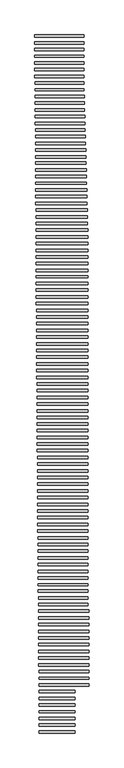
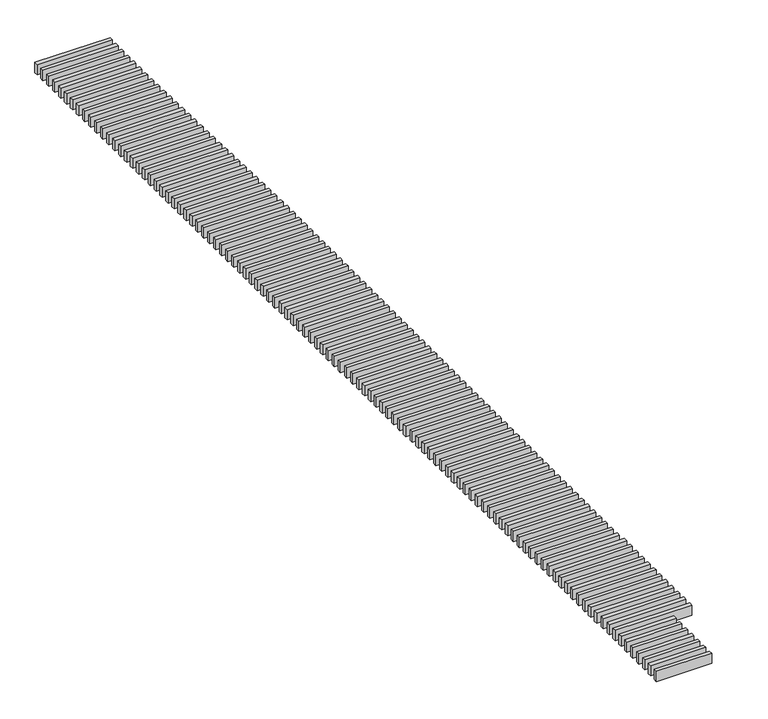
"""IFC4 building model written with IfcOpenShell, lengths in millimetres: proxy geometry, PERGOLADO : PERGOLADO."""

from ifc_helpers import new_model, si_unit, frame, origin, place, context, project, spatial, polyline, outline, extrude, source, transform, mapped, element, save


def generic_models_749ffef7(model_context):
    return source(origin(), model_context, "Body", "SweptSolid", [
        extrude(outline(polyline([(-3184.8194631, 11915.2417838), (-3184.8194631, 11845.2417838), (-4579.6936307, 11845.2417838), (-4579.6936307, 11915.2417838), (-3184.8194631, 11915.2417838)])), frame((0.0, 0.0, 3050.0), z_axis=(0.0, 0.0, 1.0), x_axis=(1.0, 0.0, 0.0)), (0.0, 0.0, 1.0), 200.0),
        extrude(outline(polyline([(-3184.8194631, 11725.2417838), (-3184.8194631, 11655.2417838), (-4579.6936307, 11655.2417838), (-4579.6936307, 11725.2417838), (-3184.8194631, 11725.2417838)])), frame((0.0, 0.0, 3050.0), z_axis=(0.0, 0.0, 1.0), x_axis=(1.0, 0.0, 0.0)), (0.0, 0.0, 1.0), 200.0),
        extrude(outline(polyline([(-3184.8194631, 11535.2417838), (-3184.8194631, 11465.2417838), (-4579.6936307, 11465.2417838), (-4579.6936307, 11535.2417838), (-3184.8194631, 11535.2417838)])), frame((0.0, 0.0, 3050.0), z_axis=(0.0, 0.0, 1.0), x_axis=(1.0, 0.0, 0.0)), (0.0, 0.0, 1.0), 200.0),
        extrude(outline(polyline([(-3184.8194631, 11345.2417838), (-3184.8194631, 11275.2417838), (-4579.6936307, 11275.2417838), (-4579.6936307, 11345.2417838), (-3184.8194631, 11345.2417838)])), frame((0.0, 0.0, 3050.0), z_axis=(0.0, 0.0, 1.0), x_axis=(1.0, 0.0, 0.0)), (0.0, 0.0, 1.0), 200.0),
        extrude(outline(polyline([(-3184.8194631, 11155.2417838), (-3184.8194631, 11085.2417838), (-4579.6936307, 11085.2417838), (-4579.6936307, 11155.2417838), (-3184.8194631, 11155.2417838)])), frame((0.0, 0.0, 3050.0), z_axis=(0.0, 0.0, 1.0), x_axis=(1.0, 0.0, 0.0)), (0.0, 0.0, 1.0), 200.0),
        extrude(outline(polyline([(-3184.8194631, 10965.2417838), (-3184.8194631, 10895.2417838), (-4579.6936307, 10895.2417838), (-4579.6936307, 10965.2417838), (-3184.8194631, 10965.2417838)])), frame((0.0, 0.0, 3050.0), z_axis=(0.0, 0.0, 1.0), x_axis=(1.0, 0.0, 0.0)), (0.0, 0.0, 1.0), 200.0),
        extrude(outline(polyline([(-3184.8194631, 10775.2417838), (-3184.8194631, 10705.2417838), (-4579.6936307, 10705.2417838), (-4579.6936307, 10775.2417838), (-3184.8194631, 10775.2417838)])), frame((0.0, 0.0, 3050.0), z_axis=(0.0, 0.0, 1.0), x_axis=(1.0, 0.0, 0.0)), (0.0, 0.0, 1.0), 200.0),
        extrude(outline(polyline([(-3181.007192, 10585.2417838), (-3181.007192, 10515.2417838), (-4575.8813596, 10515.2417838), (-4575.8813596, 10585.2417838), (-3181.007192, 10585.2417838)])), frame((0.0, 0.0, 3050.0), z_axis=(0.0, 0.0, 1.0), x_axis=(1.0, 0.0, 0.0)), (0.0, 0.0, 1.0), 200.0),
        extrude(outline(polyline([(-3176.0190057, 10395.2417838), (-3176.0190057, 10325.2417838), (-4570.8931733, 10325.2417838), (-4570.8931733, 10395.2417838), (-3176.0190057, 10395.2417838)])), frame((0.0, 0.0, 3050.0), z_axis=(0.0, 0.0, 1.0), x_axis=(1.0, 0.0, 0.0)), (0.0, 0.0, 1.0), 200.0),
        extrude(outline(polyline([(-3171.0308194, 10205.2417838), (-3171.0308194, 10135.2417838), (-4568.4064153, 10135.2417838), (-4568.4064153, 10205.2417838), (-3171.0308194, 10205.2417838)])), frame((0.0, 0.0, 3050.0), z_axis=(0.0, 0.0, 1.0), x_axis=(1.0, 0.0, 0.0)), (0.0, 0.0, 1.0), 200.0),
        extrude(outline(polyline([(-3166.0426332, 10015.2417838), (-3166.0426332, 9945.2417838), (-4566.8027673, 9945.2417838), (-4566.8027673, 10015.2417838), (-3166.0426332, 10015.2417838)])), frame((0.0, 0.0, 3050.0), z_axis=(0.0, 0.0, 1.0), x_axis=(1.0, 0.0, 0.0)), (0.0, 0.0, 1.0), 200.0),
        extrude(outline(polyline([(-3161.0544469, 9825.2417838), (-3161.0544469, 9755.2417838), (-4566.062622, 9755.2417838), (-4566.062622, 9825.2417838), (-3161.0544469, 9825.2417838)])), frame((0.0, 0.0, 3050.0), z_axis=(0.0, 0.0, 1.0), x_axis=(1.0, 0.0, 0.0)), (0.0, 0.0, 1.0), 200.0),
        extrude(outline(polyline([(-3156.0662606, 9635.2417838), (-3156.0662606, 9565.2417838), (-4564.8907253, 9565.2417838), (-4564.8907253, 9635.2417838), (-3156.0662606, 9635.2417838)])), frame((0.0, 0.0, 3050.0), z_axis=(0.0, 0.0, 1.0), x_axis=(1.0, 0.0, 0.0)), (0.0, 0.0, 1.0), 200.0),
        extrude(outline(polyline([(-3151.0780743, 9445.2417838), (-3151.0780743, 9375.2417838), (-4563.7188286, 9375.2417838), (-4563.7188286, 9445.2417838), (-3151.0780743, 9445.2417838)])), frame((0.0, 0.0, 3050.0), z_axis=(0.0, 0.0, 1.0), x_axis=(1.0, 0.0, 0.0)), (0.0, 0.0, 1.0), 200.0),
        extrude(outline(polyline([(-3146.089888, 9255.2417838), (-3146.089888, 9185.2417838), (-4562.5469319, 9185.2417838), (-4562.5469319, 9255.2417838), (-3146.089888, 9255.2417838)])), frame((0.0, 0.0, 3050.0), z_axis=(0.0, 0.0, 1.0), x_axis=(1.0, 0.0, 0.0)), (0.0, 0.0, 1.0), 200.0),
        extrude(outline(polyline([(-3141.1017017, 9065.2417838), (-3141.1017017, 8995.2417838), (-4561.3750353, 8995.2417838), (-4561.3750353, 9065.2417838), (-3141.1017017, 9065.2417838)])), frame((0.0, 0.0, 3050.0), z_axis=(0.0, 0.0, 1.0), x_axis=(1.0, 0.0, 0.0)), (0.0, 0.0, 1.0), 200.0),
        extrude(outline(polyline([(-3136.1135154, 8875.2417838), (-3136.1135154, 8805.2417838), (-4560.2031386, 8805.2417838), (-4560.2031386, 8875.2417838), (-3136.1135154, 8875.2417838)])), frame((0.0, 0.0, 3050.0), z_axis=(0.0, 0.0, 1.0), x_axis=(1.0, 0.0, 0.0)), (0.0, 0.0, 1.0), 200.0),
        extrude(outline(polyline([(-3131.1253291, 8685.2417838), (-3131.1253291, 8615.2417838), (-4559.0312419, 8615.2417838), (-4559.0312419, 8685.2417838), (-3131.1253291, 8685.2417838)])), frame((0.0, 0.0, 3050.0), z_axis=(0.0, 0.0, 1.0), x_axis=(1.0, 0.0, 0.0)), (0.0, 0.0, 1.0), 200.0),
        extrude(outline(polyline([(-3126.1371429, 8495.2417838), (-3126.1371429, 8425.2417838), (-4557.8593452, 8425.2417838), (-4557.8593452, 8495.2417838), (-3126.1371429, 8495.2417838)])), frame((0.0, 0.0, 3050.0), z_axis=(0.0, 0.0, 1.0), x_axis=(1.0, 0.0, 0.0)), (0.0, 0.0, 1.0), 200.0),
        extrude(outline(polyline([(-3121.3948435, 8314.6076151), (-3121.3948435, 8244.6076151), (-4556.7452158, 8244.6076151), (-4556.7452158, 8314.6076151), (-3121.3948435, 8314.6076151)])), frame((0.0, 0.0, 3050.0), z_axis=(0.0, 0.0, 1.0), x_axis=(1.0, 0.0, 0.0)), (0.0, 0.0, 1.0), 200.0),
        extrude(outline(polyline([(-3116.4066572, 8124.6076151), (-3116.4066572, 8054.6076151), (-4555.5733192, 8054.6076151), (-4555.5733192, 8124.6076151), (-3116.4066572, 8124.6076151)])), frame((0.0, 0.0, 3050.0), z_axis=(0.0, 0.0, 1.0), x_axis=(1.0, 0.0, 0.0)), (0.0, 0.0, 1.0), 200.0),
        extrude(outline(polyline([(-3111.4184709, 7934.6076151), (-3111.4184709, 7864.6076151), (-4554.4014225, 7864.6076151), (-4554.4014225, 7934.6076151), (-3111.4184709, 7934.6076151)])), frame((0.0, 0.0, 3050.0), z_axis=(0.0, 0.0, 1.0), x_axis=(1.0, 0.0, 0.0)), (0.0, 0.0, 1.0), 200.0),
        extrude(outline(polyline([(-3106.4302846, 7744.6076151), (-3106.4302846, 7674.6076151), (-4553.2295258, 7674.6076151), (-4553.2295258, 7744.6076151), (-3106.4302846, 7744.6076151)])), frame((0.0, 0.0, 3050.0), z_axis=(0.0, 0.0, 1.0), x_axis=(1.0, 0.0, 0.0)), (0.0, 0.0, 1.0), 200.0),
        extrude(outline(polyline([(-3101.4420983, 7554.6076151), (-3101.4420983, 7484.6076151), (-4552.0576291, 7484.6076151), (-4552.0576291, 7554.6076151), (-3101.4420983, 7554.6076151)])), frame((0.0, 0.0, 3050.0), z_axis=(0.0, 0.0, 1.0), x_axis=(1.0, 0.0, 0.0)), (0.0, 0.0, 1.0), 200.0),
        extrude(outline(polyline([(-3096.453912, 7364.6076151), (-3096.453912, 7294.6076151), (-4550.8857325, 7294.6076151), (-4550.8857325, 7364.6076151), (-3096.453912, 7364.6076151)])), frame((0.0, 0.0, 3050.0), z_axis=(0.0, 0.0, 1.0), x_axis=(1.0, 0.0, 0.0)), (0.0, 0.0, 1.0), 200.0),
        extrude(outline(polyline([(-3091.4657257, 7174.6076151), (-3091.4657257, 7104.6076151), (-4549.7138358, 7104.6076151), (-4549.7138358, 7174.6076151), (-3091.4657257, 7174.6076151)])), frame((0.0, 0.0, 3050.0), z_axis=(0.0, 0.0, 1.0), x_axis=(1.0, 0.0, 0.0)), (0.0, 0.0, 1.0), 200.0),
        extrude(outline(polyline([(-3086.4775395, 6984.6076151), (-3086.4775395, 6914.6076151), (-4548.5419391, 6914.6076151), (-4548.5419391, 6984.6076151), (-3086.4775395, 6984.6076151)])), frame((0.0, 0.0, 3050.0), z_axis=(0.0, 0.0, 1.0), x_axis=(1.0, 0.0, 0.0)), (0.0, 0.0, 1.0), 200.0),
        extrude(outline(polyline([(-3081.4893532, 6794.6076151), (-3081.4893532, 6724.6076151), (-4547.3700424, 6724.6076151), (-4547.3700424, 6794.6076151), (-3081.4893532, 6794.6076151)])), frame((0.0, 0.0, 3050.0), z_axis=(0.0, 0.0, 1.0), x_axis=(1.0, 0.0, 0.0)), (0.0, 0.0, 1.0), 200.0),
        extrude(outline(polyline([(-3076.5011669, 6604.6076151), (-3076.5011669, 6534.6076151), (-4547.3700424, 6534.6076151), (-4547.3700424, 6604.6076151), (-3076.5011669, 6604.6076151)])), frame((0.0, 0.0, 3050.0), z_axis=(0.0, 0.0, 1.0), x_axis=(1.0, 0.0, 0.0)), (0.0, 0.0, 1.0), 200.0),
        extrude(outline(polyline([(-3071.5129806, 6414.6076151), (-3071.5129806, 6344.6076151), (-4545.0262491, 6344.6076151), (-4545.0262491, 6414.6076151), (-3071.5129806, 6414.6076151)])), frame((0.0, 0.0, 3050.0), z_axis=(0.0, 0.0, 1.0), x_axis=(1.0, 0.0, 0.0)), (0.0, 0.0, 1.0), 200.0),
        extrude(outline(polyline([(-3070.2679046, 6224.6076151), (-3070.2679046, 6154.6076151), (-4543.8543524, 6154.6076151), (-4543.8543524, 6224.6076151), (-3070.2679046, 6224.6076151)])), frame((0.0, 0.0, 3050.0), z_axis=(0.0, 0.0, 1.0), x_axis=(1.0, 0.0, 0.0)), (0.0, 0.0, 1.0), 200.0),
        extrude(outline(polyline([(-3070.2679046, 6034.6076151), (-3070.2679046, 5964.6076151), (-4542.6824557, 5964.6076151), (-4542.6824557, 6034.6076151), (-3070.2679046, 6034.6076151)])), frame((0.0, 0.0, 3050.0), z_axis=(0.0, 0.0, 1.0), x_axis=(1.0, 0.0, 0.0)), (0.0, 0.0, 1.0), 200.0),
        extrude(outline(polyline([(-3070.2679046, 5844.6076151), (-3070.2679046, 5774.6076151), (-4541.0788076, 5774.6076151), (-4541.0788076, 5844.6076151), (-3070.2679046, 5844.6076151)])), frame((0.0, 0.0, 3050.0), z_axis=(0.0, 0.0, 1.0), x_axis=(1.0, 0.0, 0.0)), (0.0, 0.0, 1.0), 200.0),
        extrude(outline(polyline([(-3070.2679046, 5654.6076151), (-3070.2679046, 5584.6076151), (-4540.3386623, 5584.6076151), (-4540.3386623, 5654.6076151), (-3070.2679046, 5654.6076151)])), frame((0.0, 0.0, 3050.0), z_axis=(0.0, 0.0, 1.0), x_axis=(1.0, 0.0, 0.0)), (0.0, 0.0, 1.0), 200.0),
        extrude(outline(polyline([(-3070.2679046, 5464.6076151), (-3070.2679046, 5394.6076151), (-4540.3386623, 5394.6076151), (-4540.3386623, 5464.6076151), (-3070.2679046, 5464.6076151)])), frame((0.0, 0.0, 3050.0), z_axis=(0.0, 0.0, 1.0), x_axis=(1.0, 0.0, 0.0)), (0.0, 0.0, 1.0), 200.0),
        extrude(outline(polyline([(-3070.2679046, 5274.6076151), (-3070.2679046, 5204.6076151), (-4540.3386623, 5204.6076151), (-4540.3386623, 5274.6076151), (-3070.2679046, 5274.6076151)])), frame((0.0, 0.0, 3050.0), z_axis=(0.0, 0.0, 1.0), x_axis=(1.0, 0.0, 0.0)), (0.0, 0.0, 1.0), 200.0),
        extrude(outline(polyline([(-3070.2679046, 5093.9734464), (-3070.2679046, 5023.9734464), (-4540.3386623, 5023.9734464), (-4540.3386623, 5093.9734464), (-3070.2679046, 5093.9734464)])), frame((0.0, 0.0, 3050.0), z_axis=(0.0, 0.0, 1.0), x_axis=(1.0, 0.0, 0.0)), (0.0, 0.0, 1.0), 200.0),
        extrude(outline(polyline([(-3070.2679046, 4903.9734464), (-3070.2679046, 4833.9734464), (-4540.3386623, 4833.9734464), (-4540.3386623, 4903.9734464), (-3070.2679046, 4903.9734464)])), frame((0.0, 0.0, 3050.0), z_axis=(0.0, 0.0, 1.0), x_axis=(1.0, 0.0, 0.0)), (0.0, 0.0, 1.0), 200.0),
        extrude(outline(polyline([(-3070.2679046, 4713.9734464), (-3070.2679046, 4643.9734464), (-4540.3386623, 4643.9734464), (-4540.3386623, 4713.9734464), (-3070.2679046, 4713.9734464)])), frame((0.0, 0.0, 3050.0), z_axis=(0.0, 0.0, 1.0), x_axis=(1.0, 0.0, 0.0)), (0.0, 0.0, 1.0), 200.0),
        extrude(outline(polyline([(-3070.2679046, 4523.9734464), (-3070.2679046, 4453.9734464), (-4540.3386623, 4453.9734464), (-4540.3386623, 4523.9734464), (-3070.2679046, 4523.9734464)])), frame((0.0, 0.0, 3050.0), z_axis=(0.0, 0.0, 1.0), x_axis=(1.0, 0.0, 0.0)), (0.0, 0.0, 1.0), 200.0),
        extrude(outline(polyline([(-3070.2679046, 4333.9734464), (-3070.2679046, 4263.9734464), (-4540.3386623, 4263.9734464), (-4540.3386623, 4333.9734464), (-3070.2679046, 4333.9734464)])), frame((0.0, 0.0, 3050.0), z_axis=(0.0, 0.0, 1.0), x_axis=(1.0, 0.0, 0.0)), (0.0, 0.0, 1.0), 200.0),
        extrude(outline(polyline([(-3070.2679046, 4143.9734464), (-3070.2679046, 4073.9734464), (-4531.0212562, 4073.9734464), (-4531.0212562, 4143.9734464), (-3070.2679046, 4143.9734464)])), frame((0.0, 0.0, 3050.0), z_axis=(0.0, 0.0, 1.0), x_axis=(1.0, 0.0, 0.0)), (0.0, 0.0, 1.0), 200.0),
        extrude(outline(polyline([(-3070.2679046, 3953.9734464), (-3070.2679046, 3883.9734464), (-4531.0212562, 3883.9734464), (-4531.0212562, 3953.9734464), (-3070.2679046, 3953.9734464)])), frame((0.0, 0.0, 3050.0), z_axis=(0.0, 0.0, 1.0), x_axis=(1.0, 0.0, 0.0)), (0.0, 0.0, 1.0), 200.0),
        extrude(outline(polyline([(-3070.2679046, 3763.9734464), (-3070.2679046, 3693.9734464), (-4531.0212562, 3693.9734464), (-4531.0212562, 3763.9734464), (-3070.2679046, 3763.9734464)])), frame((0.0, 0.0, 3050.0), z_axis=(0.0, 0.0, 1.0), x_axis=(1.0, 0.0, 0.0)), (0.0, 0.0, 1.0), 200.0),
        extrude(outline(polyline([(-3070.2679046, 3573.9734464), (-3070.2679046, 3503.9734464), (-4531.0212562, 3503.9734464), (-4531.0212562, 3573.9734464), (-3070.2679046, 3573.9734464)])), frame((0.0, 0.0, 3050.0), z_axis=(0.0, 0.0, 1.0), x_axis=(1.0, 0.0, 0.0)), (0.0, 0.0, 1.0), 200.0),
        extrude(outline(polyline([(-3070.2679046, 3383.9734464), (-3070.2679046, 3313.9734464), (-4531.0212562, 3313.9734464), (-4531.0212562, 3383.9734464), (-3070.2679046, 3383.9734464)])), frame((0.0, 0.0, 3050.0), z_axis=(0.0, 0.0, 1.0), x_axis=(1.0, 0.0, 0.0)), (0.0, 0.0, 1.0), 200.0),
        extrude(outline(polyline([(-3070.2679046, 3193.9734464), (-3070.2679046, 3123.9734464), (-4531.0212562, 3123.9734464), (-4531.0212562, 3193.9734464), (-3070.2679046, 3193.9734464)])), frame((0.0, 0.0, 3050.0), z_axis=(0.0, 0.0, 1.0), x_axis=(1.0, 0.0, 0.0)), (0.0, 0.0, 1.0), 200.0),
        extrude(outline(polyline([(-3070.2679046, 3003.9734464), (-3070.2679046, 2933.9734464), (-4531.0212562, 2933.9734464), (-4531.0212562, 3003.9734464), (-3070.2679046, 3003.9734464)])), frame((0.0, 0.0, 3050.0), z_axis=(0.0, 0.0, 1.0), x_axis=(1.0, 0.0, 0.0)), (0.0, 0.0, 1.0), 200.0),
        extrude(outline(polyline([(-3070.2679046, 2813.9734464), (-3070.2679046, 2743.9734464), (-4531.0212562, 2743.9734464), (-4531.0212562, 2813.9734464), (-3070.2679046, 2813.9734464)])), frame((0.0, 0.0, 3050.0), z_axis=(0.0, 0.0, 1.0), x_axis=(1.0, 0.0, 0.0)), (0.0, 0.0, 1.0), 200.0),
        extrude(outline(polyline([(-3070.2679046, 2623.9734464), (-3070.2679046, 2553.9734464), (-4531.0212562, 2553.9734464), (-4531.0212562, 2623.9734464), (-3070.2679046, 2623.9734464)])), frame((0.0, 0.0, 3050.0), z_axis=(0.0, 0.0, 1.0), x_axis=(1.0, 0.0, 0.0)), (0.0, 0.0, 1.0), 200.0),
        extrude(outline(polyline([(-3070.2679046, 2433.9734464), (-3070.2679046, 2363.9734464), (-4531.0212562, 2363.9734464), (-4531.0212562, 2433.9734464), (-3070.2679046, 2433.9734464)])), frame((0.0, 0.0, 3050.0), z_axis=(0.0, 0.0, 1.0), x_axis=(1.0, 0.0, 0.0)), (0.0, 0.0, 1.0), 200.0),
        extrude(outline(polyline([(-3070.2679046, 2243.9734464), (-3070.2679046, 2173.9734464), (-4531.0212562, 2173.9734464), (-4531.0212562, 2243.9734464), (-3070.2679046, 2243.9734464)])), frame((0.0, 0.0, 3050.0), z_axis=(0.0, 0.0, 1.0), x_axis=(1.0, 0.0, 0.0)), (0.0, 0.0, 1.0), 200.0),
        extrude(outline(polyline([(-3070.2679046, 2053.9734464), (-3070.2679046, 1983.9734464), (-4518.1303927, 1983.9734464), (-4518.1303927, 2053.9734464), (-3070.2679046, 2053.9734464)])), frame((0.0, 0.0, 3050.0), z_axis=(0.0, 0.0, 1.0), x_axis=(1.0, 0.0, 0.0)), (0.0, 0.0, 1.0), 200.0),
        extrude(outline(polyline([(-3070.2679046, 1863.9734464), (-3070.2679046, 1793.9734464), (-4518.1303927, 1793.9734464), (-4518.1303927, 1863.9734464), (-3070.2679046, 1863.9734464)])), frame((0.0, 0.0, 3050.0), z_axis=(0.0, 0.0, 1.0), x_axis=(1.0, 0.0, 0.0)), (0.0, 0.0, 1.0), 200.0),
        extrude(outline(polyline([(-3070.2679046, 1673.9734464), (-3070.2679046, 1603.9734464), (-4518.1303927, 1603.9734464), (-4518.1303927, 1673.9734464), (-3070.2679046, 1673.9734464)])), frame((0.0, 0.0, 3050.0), z_axis=(0.0, 0.0, 1.0), x_axis=(1.0, 0.0, 0.0)), (0.0, 0.0, 1.0), 200.0),
        extrude(outline(polyline([(-3070.2679046, 1483.9734464), (-3070.2679046, 1413.9734464), (-4518.1303927, 1413.9734464), (-4518.1303927, 1483.9734464), (-3070.2679046, 1483.9734464)])), frame((0.0, 0.0, 3050.0), z_axis=(0.0, 0.0, 1.0), x_axis=(1.0, 0.0, 0.0)), (0.0, 0.0, 1.0), 200.0),
        extrude(outline(polyline([(-3070.2679046, 1293.9734464), (-3070.2679046, 1223.9734464), (-4518.1303927, 1223.9734464), (-4518.1303927, 1293.9734464), (-3070.2679046, 1293.9734464)])), frame((0.0, 0.0, 3050.0), z_axis=(0.0, 0.0, 1.0), x_axis=(1.0, 0.0, 0.0)), (0.0, 0.0, 1.0), 200.0),
        extrude(outline(polyline([(-3070.2679046, 1103.9734464), (-3070.2679046, 1033.9734464), (-4518.1303927, 1033.9734464), (-4518.1303927, 1103.9734464), (-3070.2679046, 1103.9734464)])), frame((0.0, 0.0, 3050.0), z_axis=(0.0, 0.0, 1.0), x_axis=(1.0, 0.0, 0.0)), (0.0, 0.0, 1.0), 200.0),
        extrude(outline(polyline([(-3070.2679046, 923.3392777), (-3070.2679046, 853.3392777), (-4518.1303927, 853.3392777), (-4518.1303927, 923.3392777), (-3070.2679046, 923.3392777)])), frame((0.0, 0.0, 3050.0), z_axis=(0.0, 0.0, 1.0), x_axis=(1.0, 0.0, 0.0)), (0.0, 0.0, 1.0), 200.0),
        extrude(outline(polyline([(-3070.2679046, 733.3392777), (-3070.2679046, 663.3392777), (-4518.1303927, 663.3392777), (-4518.1303927, 733.3392777), (-3070.2679046, 733.3392777)])), frame((0.0, 0.0, 3050.0), z_axis=(0.0, 0.0, 1.0), x_axis=(1.0, 0.0, 0.0)), (0.0, 0.0, 1.0), 200.0),
        extrude(outline(polyline([(-3070.2679046, 543.3392777), (-3070.2679046, 473.3392777), (-4518.1303927, 473.3392777), (-4518.1303927, 543.3392777), (-3070.2679046, 543.3392777)])), frame((0.0, 0.0, 3050.0), z_axis=(0.0, 0.0, 1.0), x_axis=(1.0, 0.0, 0.0)), (0.0, 0.0, 1.0), 200.0),
        extrude(outline(polyline([(-3070.2679046, 353.3392777), (-3070.2679046, 283.3392777), (-4518.1303927, 283.3392777), (-4518.1303927, 353.3392777), (-3070.2679046, 353.3392777)])), frame((0.0, 0.0, 3050.0), z_axis=(0.0, 0.0, 1.0), x_axis=(1.0, 0.0, 0.0)), (0.0, 0.0, 1.0), 200.0),
        extrude(outline(polyline([(-3070.2679046, 163.3392777), (-3070.2679046, 93.3392777), (-4518.1303927, 93.3392777), (-4518.1303927, 163.3392777), (-3070.2679046, 163.3392777)])), frame((0.0, 0.0, 3050.0), z_axis=(0.0, 0.0, 1.0), x_axis=(1.0, 0.0, 0.0)), (0.0, 0.0, 1.0), 200.0),
        extrude(outline(polyline([(-3070.2679046, -26.6607223), (-3070.2679046, -96.6607223), (-4505.2972965, -96.6607223), (-4505.2972965, -26.6607223), (-3070.2679046, -26.6607223)])), frame((0.0, 0.0, 3050.0), z_axis=(0.0, 0.0, 1.0), x_axis=(1.0, 0.0, 0.0)), (0.0, 0.0, 1.0), 200.0),
        extrude(outline(polyline([(-3070.2679046, -216.6607223), (-3070.2679046, -286.6607223), (-4505.2972965, -286.6607223), (-4505.2972965, -216.6607223), (-3070.2679046, -216.6607223)])), frame((0.0, 0.0, 3050.0), z_axis=(0.0, 0.0, 1.0), x_axis=(1.0, 0.0, 0.0)), (0.0, 0.0, 1.0), 200.0),
        extrude(outline(polyline([(-3070.2679046, -406.6607223), (-3070.2679046, -476.6607223), (-4505.2972965, -476.6607223), (-4505.2972965, -406.6607223), (-3070.2679046, -406.6607223)])), frame((0.0, 0.0, 3050.0), z_axis=(0.0, 0.0, 1.0), x_axis=(1.0, 0.0, 0.0)), (0.0, 0.0, 1.0), 200.0),
        extrude(outline(polyline([(-3070.2679046, -596.6607223), (-3070.2679046, -666.6607223), (-4505.2972965, -666.6607223), (-4505.2972965, -596.6607223), (-3070.2679046, -596.6607223)])), frame((0.0, 0.0, 3050.0), z_axis=(0.0, 0.0, 1.0), x_axis=(1.0, 0.0, 0.0)), (0.0, 0.0, 1.0), 200.0),
        extrude(outline(polyline([(-3070.2679046, -786.6607223), (-3070.2679046, -856.6607223), (-4505.2972965, -856.6607223), (-4505.2972965, -786.6607223), (-3070.2679046, -786.6607223)])), frame((0.0, 0.0, 3050.0), z_axis=(0.0, 0.0, 1.0), x_axis=(1.0, 0.0, 0.0)), (0.0, 0.0, 1.0), 200.0),
        extrude(outline(polyline([(-3070.2679046, -976.6607223), (-3070.2679046, -1046.6607223), (-4505.2972965, -1046.6607223), (-4505.2972965, -976.6607223), (-3070.2679046, -976.6607223)])), frame((0.0, 0.0, 3050.0), z_axis=(0.0, 0.0, 1.0), x_axis=(1.0, 0.0, 0.0)), (0.0, 0.0, 1.0), 200.0),
        extrude(outline(polyline([(-3070.2679046, -1166.6607223), (-3070.2679046, -1236.6607223), (-4505.2972965, -1236.6607223), (-4505.2972965, -1166.6607223), (-3070.2679046, -1166.6607223)])), frame((0.0, 0.0, 3050.0), z_axis=(0.0, 0.0, 1.0), x_axis=(1.0, 0.0, 0.0)), (0.0, 0.0, 1.0), 200.0),
        extrude(outline(polyline([(-3070.2679046, -1356.6607223), (-3070.2679046, -1426.6607223), (-4505.2972965, -1426.6607223), (-4505.2972965, -1356.6607223), (-3070.2679046, -1356.6607223)])), frame((0.0, 0.0, 3050.0), z_axis=(0.0, 0.0, 1.0), x_axis=(1.0, 0.0, 0.0)), (0.0, 0.0, 1.0), 200.0),
        extrude(outline(polyline([(-3070.2679046, -1546.6607223), (-3070.2679046, -1616.6607223), (-4505.2972965, -1616.6607223), (-4505.2972965, -1546.6607223), (-3070.2679046, -1546.6607223)])), frame((0.0, 0.0, 3050.0), z_axis=(0.0, 0.0, 1.0), x_axis=(1.0, 0.0, 0.0)), (0.0, 0.0, 1.0), 200.0),
        extrude(outline(polyline([(-3070.2679046, -1736.6607223), (-3070.2679046, -1806.6607223), (-4505.2972965, -1806.6607223), (-4505.2972965, -1736.6607223), (-3070.2679046, -1736.6607223)])), frame((0.0, 0.0, 3050.0), z_axis=(0.0, 0.0, 1.0), x_axis=(1.0, 0.0, 0.0)), (0.0, 0.0, 1.0), 200.0),
        extrude(outline(polyline([(-3070.2679046, -1926.6607223), (-3070.2679046, -1996.6607223), (-4505.2972965, -1996.6607223), (-4505.2972965, -1926.6607223), (-3070.2679046, -1926.6607223)])), frame((0.0, 0.0, 3050.0), z_axis=(0.0, 0.0, 1.0), x_axis=(1.0, 0.0, 0.0)), (0.0, 0.0, 1.0), 200.0),
        extrude(outline(polyline([(-3070.2679046, -2116.6607223), (-3070.2679046, -2186.6607223), (-4505.2972965, -2186.6607223), (-4505.2972965, -2116.6607223), (-3070.2679046, -2116.6607223)])), frame((0.0, 0.0, 3050.0), z_axis=(0.0, 0.0, 1.0), x_axis=(1.0, 0.0, 0.0)), (0.0, 0.0, 1.0), 200.0),
        extrude(outline(polyline([(-3070.2679046, -2306.6607223), (-3070.2679046, -2376.6607223), (-4491.2345364, -2376.6607223), (-4491.2345364, -2306.6607223), (-3070.2679046, -2306.6607223)])), frame((0.0, 0.0, 3050.0), z_axis=(0.0, 0.0, 1.0), x_axis=(1.0, 0.0, 0.0)), (0.0, 0.0, 1.0), 200.0),
        extrude(outline(polyline([(-3070.2679046, -2496.6607223), (-3070.2679046, -2566.6607223), (-4491.2345364, -2566.6607223), (-4491.2345364, -2496.6607223), (-3070.2679046, -2496.6607223)])), frame((0.0, 0.0, 3050.0), z_axis=(0.0, 0.0, 1.0), x_axis=(1.0, 0.0, 0.0)), (0.0, 0.0, 1.0), 200.0),
        extrude(outline(polyline([(-3070.2679046, -2686.6607223), (-3070.2679046, -2756.6607223), (-4491.2345364, -2756.6607223), (-4491.2345364, -2686.6607223), (-3070.2679046, -2686.6607223)])), frame((0.0, 0.0, 3050.0), z_axis=(0.0, 0.0, 1.0), x_axis=(1.0, 0.0, 0.0)), (0.0, 0.0, 1.0), 200.0),
        extrude(outline(polyline([(-3070.2679046, -2876.6607223), (-3070.2679046, -2946.6607223), (-4491.2345364, -2946.6607223), (-4491.2345364, -2876.6607223), (-3070.2679046, -2876.6607223)])), frame((0.0, 0.0, 3050.0), z_axis=(0.0, 0.0, 1.0), x_axis=(1.0, 0.0, 0.0)), (0.0, 0.0, 1.0), 200.0),
        extrude(outline(polyline([(-3070.2679046, -3066.6607223), (-3070.2679046, -3136.6607223), (-4491.2345364, -3136.6607223), (-4491.2345364, -3066.6607223), (-3070.2679046, -3066.6607223)])), frame((0.0, 0.0, 3050.0), z_axis=(0.0, 0.0, 1.0), x_axis=(1.0, 0.0, 0.0)), (0.0, 0.0, 1.0), 200.0),
        extrude(outline(polyline([(-3070.2679046, -3256.6607223), (-3070.2679046, -3326.6607223), (-4491.2345364, -3326.6607223), (-4491.2345364, -3256.6607223), (-3070.2679046, -3256.6607223)])), frame((0.0, 0.0, 3050.0), z_axis=(0.0, 0.0, 1.0), x_axis=(1.0, 0.0, 0.0)), (0.0, 0.0, 1.0), 200.0),
        extrude(outline(polyline([(-3070.2679046, -3446.6607223), (-3070.2679046, -3516.6607223), (-4491.2345364, -3516.6607223), (-4491.2345364, -3446.6607223), (-3070.2679046, -3446.6607223)])), frame((0.0, 0.0, 3050.0), z_axis=(0.0, 0.0, 1.0), x_axis=(1.0, 0.0, 0.0)), (0.0, 0.0, 1.0), 200.0),
        extrude(outline(polyline([(-3070.2679046, -3636.6607223), (-3070.2679046, -3706.6607223), (-4491.2345364, -3706.6607223), (-4491.2345364, -3636.6607223), (-3070.2679046, -3636.6607223)])), frame((0.0, 0.0, 3050.0), z_axis=(0.0, 0.0, 1.0), x_axis=(1.0, 0.0, 0.0)), (0.0, 0.0, 1.0), 200.0),
        extrude(outline(polyline([(-3069.6938176, -3817.294891), (-3069.6938176, -3887.294891), (-4491.2345364, -3887.294891), (-4491.2345364, -3817.294891), (-3069.6938176, -3817.294891)])), frame((0.0, 0.0, 3050.0), z_axis=(0.0, 0.0, 1.0), x_axis=(1.0, 0.0, 0.0)), (0.0, 0.0, 1.0), 200.0),
        extrude(outline(polyline([(-3068.1955029, -4007.294891), (-3068.1955029, -4077.294891), (-4477.8035138, -4077.294891), (-4477.8035138, -4007.294891), (-3068.1955029, -4007.294891)])), frame((0.0, 0.0, 3050.0), z_axis=(0.0, 0.0, 1.0), x_axis=(1.0, 0.0, 0.0)), (0.0, 0.0, 1.0), 200.0),
        extrude(outline(polyline([(-3065.7111026, -4197.294891), (-3065.7111026, -4267.294891), (-4477.8035138, -4267.294891), (-4477.8035138, -4197.294891), (-3065.7111026, -4197.294891)])), frame((0.0, 0.0, 3050.0), z_axis=(0.0, 0.0, 1.0), x_axis=(1.0, 0.0, 0.0)), (0.0, 0.0, 1.0), 200.0),
        extrude(outline(polyline([(-3043.4223899, -4387.294891), (-3043.4223899, -4457.294891), (-4477.8035138, -4457.294891), (-4477.8035138, -4387.294891), (-3043.4223899, -4387.294891)])), frame((0.0, 0.0, 3050.0), z_axis=(0.0, 0.0, 1.0), x_axis=(1.0, 0.0, 0.0)), (0.0, 0.0, 1.0), 200.0),
        extrude(outline(polyline([(-3043.4223899, -4577.294891), (-3043.4223899, -4647.294891), (-4477.8035138, -4647.294891), (-4477.8035138, -4577.294891), (-3043.4223899, -4577.294891)])), frame((0.0, 0.0, 3050.0), z_axis=(0.0, 0.0, 1.0), x_axis=(1.0, 0.0, 0.0)), (0.0, 0.0, 1.0), 200.0),
        extrude(outline(polyline([(-3043.4223899, -4767.294891), (-3043.4223899, -4837.294891), (-4477.8035138, -4837.294891), (-4477.8035138, -4767.294891), (-3043.4223899, -4767.294891)])), frame((0.0, 0.0, 3050.0), z_axis=(0.0, 0.0, 1.0), x_axis=(1.0, 0.0, 0.0)), (0.0, 0.0, 1.0), 200.0),
        extrude(outline(polyline([(-3043.4223899, -4957.294891), (-3043.4223899, -5027.294891), (-4477.8035138, -5027.294891), (-4477.8035138, -4957.294891), (-3043.4223899, -4957.294891)])), frame((0.0, 0.0, 3050.0), z_axis=(0.0, 0.0, 1.0), x_axis=(1.0, 0.0, 0.0)), (0.0, 0.0, 1.0), 200.0),
        extrude(outline(polyline([(-3043.4223899, -5147.294891), (-3043.4223899, -5217.294891), (-4477.8035138, -5217.294891), (-4477.8035138, -5147.294891), (-3043.4223899, -5147.294891)])), frame((0.0, 0.0, 3050.0), z_axis=(0.0, 0.0, 1.0), x_axis=(1.0, 0.0, 0.0)), (0.0, 0.0, 1.0), 200.0),
        extrude(outline(polyline([(-3043.4223899, -5337.294891), (-3043.4223899, -5407.294891), (-4477.8035138, -5407.294891), (-4477.8035138, -5337.294891), (-3043.4223899, -5337.294891)])), frame((0.0, 0.0, 3050.0), z_axis=(0.0, 0.0, 1.0), x_axis=(1.0, 0.0, 0.0)), (0.0, 0.0, 1.0), 200.0),
        extrude(outline(polyline([(-3043.4223899, -5527.294891), (-3043.4223899, -5597.294891), (-4477.8035138, -5597.294891), (-4477.8035138, -5527.294891), (-3043.4223899, -5527.294891)])), frame((0.0, 0.0, 3050.0), z_axis=(0.0, 0.0, 1.0), x_axis=(1.0, 0.0, 0.0)), (0.0, 0.0, 1.0), 200.0),
        extrude(outline(polyline([(-3043.4223899, -5717.294891), (-3043.4223899, -5787.294891), (-4477.8035138, -5787.294891), (-4477.8035138, -5717.294891), (-3043.4223899, -5717.294891)])), frame((0.0, 0.0, 3050.0), z_axis=(0.0, 0.0, 1.0), x_axis=(1.0, 0.0, 0.0)), (0.0, 0.0, 1.0), 200.0),
        extrude(outline(polyline([(-3043.4223899, -5907.294891), (-3043.4223899, -5977.294891), (-4477.8035138, -5977.294891), (-4477.8035138, -5907.294891), (-3043.4223899, -5907.294891)])), frame((0.0, 0.0, 3050.0), z_axis=(0.0, 0.0, 1.0), x_axis=(1.0, 0.0, 0.0)), (0.0, 0.0, 1.0), 200.0),
        extrude(outline(polyline([(-3038.1844283, -6097.294891), (-3038.1844283, -6167.294891), (-4460.9532644, -6167.294891), (-4460.9532644, -6097.294891), (-3038.1844283, -6097.294891)])), frame((0.0, 0.0, 3050.0), z_axis=(0.0, 0.0, 1.0), x_axis=(1.0, 0.0, 0.0)), (0.0, 0.0, 1.0), 200.0),
        extrude(outline(polyline([(-3038.1844283, -6287.294891), (-3038.1844283, -6357.294891), (-4460.9532644, -6357.294891), (-4460.9532644, -6287.294891), (-3038.1844283, -6287.294891)])), frame((0.0, 0.0, 3050.0), z_axis=(0.0, 0.0, 1.0), x_axis=(1.0, 0.0, 0.0)), (0.0, 0.0, 1.0), 200.0),
        extrude(outline(polyline([(-3038.1844283, -6477.294891), (-3038.1844283, -6547.294891), (-4460.9532644, -6547.294891), (-4460.9532644, -6477.294891), (-3038.1844283, -6477.294891)])), frame((0.0, 0.0, 3050.0), z_axis=(0.0, 0.0, 1.0), x_axis=(1.0, 0.0, 0.0)), (0.0, 0.0, 1.0), 200.0),
        extrude(outline(polyline([(-3439.1564653, -6667.294891), (-3439.1564653, -6737.294891), (-4460.9532644, -6737.294891), (-4460.9532644, -6667.294891), (-3439.1564653, -6667.294891)])), frame((0.0, 0.0, 3050.0), z_axis=(0.0, 0.0, 1.0), x_axis=(1.0, 0.0, 0.0)), (0.0, 0.0, 1.0), 200.0),
        extrude(outline(polyline([(-3439.1564653, -6857.294891), (-3439.1564653, -6927.294891), (-4460.9532644, -6927.294891), (-4460.9532644, -6857.294891), (-3439.1564653, -6857.294891)])), frame((0.0, 0.0, 3050.0), z_axis=(0.0, 0.0, 1.0), x_axis=(1.0, 0.0, 0.0)), (0.0, 0.0, 1.0), 200.0),
        extrude(outline(polyline([(-3439.1564653, -7047.294891), (-3439.1564653, -7117.294891), (-4460.9532644, -7117.294891), (-4460.9532644, -7047.294891), (-3439.1564653, -7047.294891)])), frame((0.0, 0.0, 3050.0), z_axis=(0.0, 0.0, 1.0), x_axis=(1.0, 0.0, 0.0)), (0.0, 0.0, 1.0), 200.0),
        extrude(outline(polyline([(-3439.1564653, -7237.294891), (-3439.1564653, -7307.294891), (-4460.9532644, -7307.294891), (-4460.9532644, -7237.294891), (-3439.1564653, -7237.294891)])), frame((0.0, 0.0, 3050.0), z_axis=(0.0, 0.0, 1.0), x_axis=(1.0, 0.0, 0.0)), (0.0, 0.0, 1.0), 200.0),
        extrude(outline(polyline([(-3439.1564653, -7427.294891), (-3439.1564653, -7497.294891), (-4460.9532644, -7497.294891), (-4460.9532644, -7427.294891), (-3439.1564653, -7427.294891)])), frame((0.0, 0.0, 3050.0), z_axis=(0.0, 0.0, 1.0), x_axis=(1.0, 0.0, 0.0)), (0.0, 0.0, 1.0), 200.0),
        extrude(outline(polyline([(-3439.1564653, -7617.294891), (-3439.1564653, -7687.294891), (-4460.9532644, -7687.294891), (-4460.9532644, -7617.294891), (-3439.1564653, -7617.294891)])), frame((0.0, 0.0, 3050.0), z_axis=(0.0, 0.0, 1.0), x_axis=(1.0, 0.0, 0.0)), (0.0, 0.0, 1.0), 200.0),
        extrude(outline(polyline([(-3439.1564653, -7807.294891), (-3439.1564653, -7877.294891), (-4460.9532644, -7877.294891), (-4460.9532644, -7807.294891), (-3439.1564653, -7807.294891)])), frame((0.0, 0.0, 3050.0), z_axis=(0.0, 0.0, 1.0), x_axis=(1.0, 0.0, 0.0)), (0.0, 0.0, 1.0), 200.0),
    ])


if __name__ == "__main__":
    model = new_model("IFC4")
    model_context = context("Model", 3, world=origin())
    ifc_project = project(units=[si_unit("LENGTHUNIT", "METRE", prefix="MILLI")], contexts=[model_context])
    site = spatial("IfcSite", under=ifc_project)
    building = spatial("IfcBuilding", under=site)
    placement = place(None, origin())
    generic_models_shape = generic_models_749ffef7(model_context)
    element("IfcBuildingElementProxy", 1, Name="PERGOLADO : PERGOLADO", ObjectType="PERGOLADO : PERGOLADO", at=placement, inside=building, context=model_context, shape_type="MappedRepresentation", body=[
        mapped(generic_models_shape, transform((0.0, 0.0, 0.0), x_axis=(1.0, 0.0, 0.0), y_axis=(0.0, 1.0, 0.0), z_axis=(0.0, 0.0, 1.0))),
    ])
    save(model, "model.ifc")
